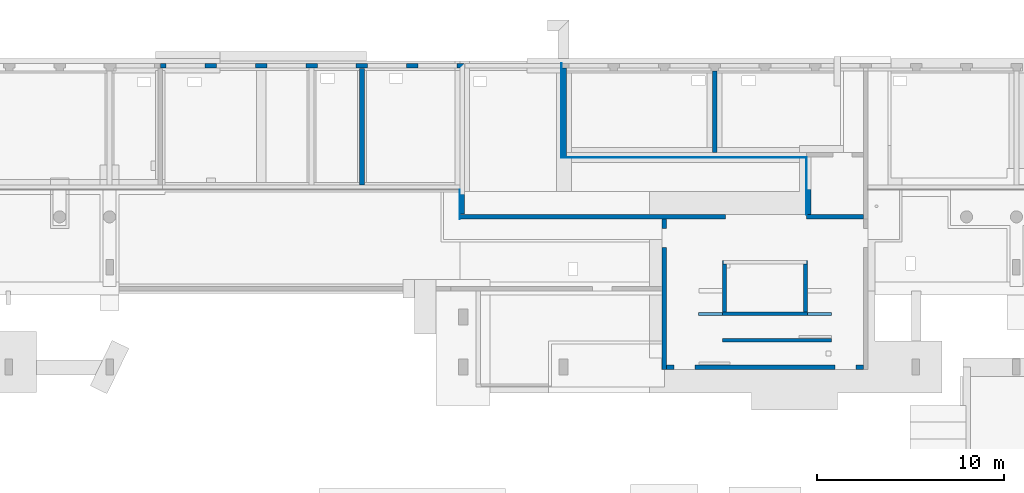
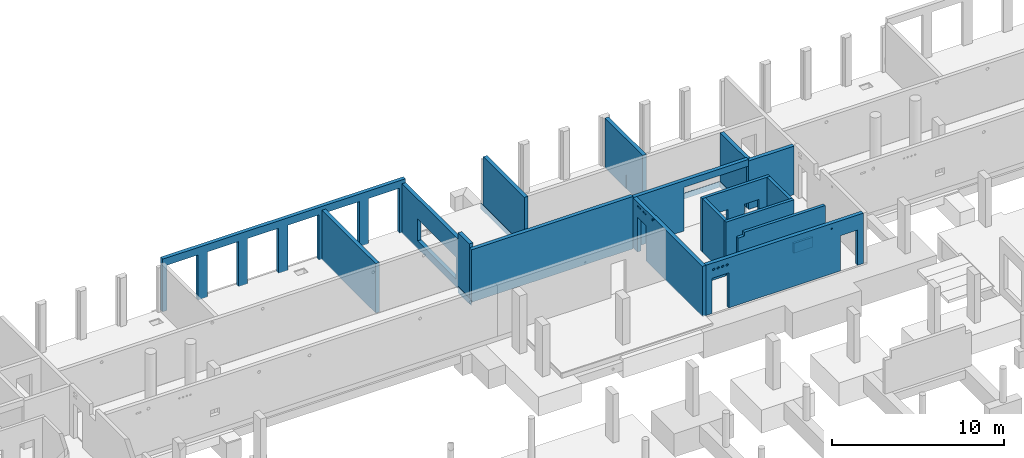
# One storey, part 46 of 60: 21 walls, 34 openings.
"""IFC2X3 building model written with IfcOpenShell, lengths in millimetres."""

from ifc_helpers import new_model, entity, si_unit, converted_unit, derived_unit, direction, frame, frame_2d, origin, origin_2d_with_axis, place, context, subcontext, project, spatial, polyline, rectangle, circle, extrude, clip, bounded_halfspace, material, layer, layer_set, layer_usage, type_object, element, save


model = new_model("IFC2X3")

# Units and contexts
model_context = context("Model", 3, precision=0.01, world=origin(), true_north=direction((6.12303176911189e-17, 1.0)))
body_context = subcontext(model_context, "Body", "Model", "MODEL_VIEW")
ifc_project = project(units=[si_unit("LENGTHUNIT", "METRE", prefix="MILLI"), si_unit("AREAUNIT", "SQUARE_METRE"), si_unit("VOLUMEUNIT", "CUBIC_METRE"), converted_unit("PLANEANGLEUNIT", "DEGREE", entity("IfcRatioMeasure", 0.0174532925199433), si_unit("PLANEANGLEUNIT", "RADIAN"), dimensions=[0, 0, 0, 0, 0, 0, 0]), si_unit("MASSUNIT", "GRAM", prefix="KILO"), derived_unit("MASSDENSITYUNIT", [(si_unit("MASSUNIT", "GRAM", prefix="KILO"), 1), (si_unit("LENGTHUNIT", "METRE"), -3)]), si_unit("TIMEUNIT", "SECOND"), si_unit("FREQUENCYUNIT", "HERTZ"), si_unit("THERMODYNAMICTEMPERATUREUNIT", "DEGREE_CELSIUS"), derived_unit("THERMALTRANSMITTANCEUNIT", [(si_unit("MASSUNIT", "GRAM", prefix="KILO"), 1), (si_unit("THERMODYNAMICTEMPERATUREUNIT", "KELVIN"), -1), (si_unit("TIMEUNIT", "SECOND"), -3)]), derived_unit("VOLUMETRICFLOWRATEUNIT", [(si_unit("LENGTHUNIT", "METRE"), 3), (si_unit("TIMEUNIT", "SECOND"), -1)]), si_unit("ELECTRICCURRENTUNIT", "AMPERE"), si_unit("ELECTRICVOLTAGEUNIT", "VOLT"), si_unit("POWERUNIT", "WATT"), si_unit("FORCEUNIT", "NEWTON", prefix="KILO"), si_unit("ILLUMINANCEUNIT", "LUX"), si_unit("LUMINOUSFLUXUNIT", "LUMEN"), si_unit("LUMINOUSINTENSITYUNIT", "CANDELA"), derived_unit("USERDEFINED", [(si_unit("MASSUNIT", "GRAM", prefix="KILO"), -1), (si_unit("LENGTHUNIT", "METRE"), -2), (si_unit("TIMEUNIT", "SECOND"), 3), (si_unit("LUMINOUSFLUXUNIT", "LUMEN"), 1)]), derived_unit("LINEARVELOCITYUNIT", [(si_unit("LENGTHUNIT", "METRE"), 1), (si_unit("TIMEUNIT", "SECOND"), -1)]), si_unit("PRESSUREUNIT", "PASCAL"), derived_unit("USERDEFINED", [(si_unit("LENGTHUNIT", "METRE"), -2), (si_unit("MASSUNIT", "GRAM", prefix="KILO"), 1), (si_unit("TIMEUNIT", "SECOND"), -2)])], contexts=[model_context])

# Site, building, storey
site_placement = place(None, origin())
site = spatial("IfcSite", under=ifc_project, at=site_placement, Name="Default", CompositionType="ELEMENT")
building_placement = place(site_placement, origin())
building = spatial("IfcBuilding", under=site, at=building_placement, Name="niet gebruiken", CompositionType="ELEMENT")
storey_placement = place(building_placement, origin())
storey = spatial("IfcBuildingStorey", under=building, at=storey_placement, Name="00 begane grond", CompositionType="ELEMENT", Elevation=0.0)

# Wall, opening
ifc_material_1 = material(Name="NLRS_f2_beton ihwg")
ifc_layer_1 = layer(ifc_material_1, 250.0)
ifc_layer_set_1 = layer_set([ifc_layer_1], Name="Basic Wall:NLRS_22.21_WA_beton ihwg d=250_gen")
ifc_layer_usage_1 = layer_usage(ifc_layer_set_1, "AXIS2", "NEGATIVE", 125.0)
wall_type_1 = type_object("IfcWallType", Name="Basic Wall:NLRS_22.21_WA_beton ihwg d=250_gen", PredefinedType="STANDARD", material=ifc_layer_set_1)
wall_1_placement = place(storey_placement, frame((70200.0, 52986.0, -160.0), z_axis=(0.0, 0.0, 1.0), x_axis=(0.0, -1.0, 0.0)))
wall_1 = element("IfcWallStandardCase", 1, at=wall_1_placement, inside=storey, type_object=wall_type_1, material=ifc_layer_usage_1, Name="Basic Wall:NLRS_22.21_WA_beton ihwg d=250_gen", ObjectType="Basic Wall:NLRS_22.21_WA_beton ihwg d=250_gen", context=body_context, shape_type="SweptSolid", body=[
    extrude(rectangle(XDim=6239.99999999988, YDim=249.999999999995, at=frame_2d((3119.99999999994, 5.25801624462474e-13), x_axis=(-1.0, 0.0))), origin(), (0.0, 0.0, 1.0), 3509.99999999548),
])
opening_1_placement = place(wall_1_placement, origin())
element("IfcOpeningElement", 2, at=opening_1_placement, cuts=wall_1, Name="Basic Wall:NLRS_22.21_WA_beton ihwg d=250_gen", ObjectType="Recess", context=body_context, shape_type="SweptSolid", body=[
    extrude(rectangle(XDim=890.0, YDim=49.9999999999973, at=origin_2d_with_axis()), frame((4490.0, 85.0, 515.0), z_axis=(0.0, 1.0, 0.0), x_axis=(0.0, 0.0, -1.0)), (0.0, 0.0, 1.0), 40.0000000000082),
])

# Wall, openings
ifc_layer_usage_2 = layer_usage(ifc_layer_set_1, "AXIS2", "NEGATIVE", 125.0)
wall_2_placement = place(storey_placement, frame((75450.0, 45031.0, -160.0)))
wall_2 = element("IfcWallStandardCase", 3, at=wall_2_placement, inside=storey, type_object=wall_type_1, material=ifc_layer_usage_2, Name="Basic Wall:NLRS_22.21_WA_beton ihwg d=250_gen", ObjectType="Basic Wall:NLRS_22.21_WA_beton ihwg d=250_gen", context=body_context, shape_type="Clipping", body=[
    clip(clip(clip(clip(clip(extrude(rectangle(XDim=18574.9999999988, YDim=249.999999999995, at=frame_2d((9287.4999999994, -3.03401748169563e-12), x_axis=(-1.0, 0.0))), origin(), (0.0, 0.0, 1.0), 3720.0), bounded_halfspace(frame((0.0, 125.0, 3720.0), z_axis=(0.0, 0.0, -1.0), x_axis=(-1.0, 0.0, 0.0)), True, frame((0.0, 125.0, 3720.0), z_axis=(0.0, 0.0, -1.0), x_axis=(-1.0, 0.0, 0.0)), polyline([(0.0, 0.0), (-20.0, 0.0), (-10824.9998491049, 0.0), (-10824.9998491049, -230.0), (-10824.9998491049, -250.0), (0.0, -250.0), (0.0, 0.0)]))), bounded_halfspace(frame((10824.9998491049, 125.0, 3630.0), z_axis=(0.0, 0.0, -1.0), x_axis=(0.0, 1.0, 0.0)), True, frame((10824.9998491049, 125.0, 3630.0), z_axis=(0.0, 0.0, -1.0), x_axis=(0.0, 1.0, 0.0)), polyline([(0.0, 0.0), (0.0, 7750.00015089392), (-230.0, 7750.00015089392), (-250.0, 7750.00015089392), (-250.0, 250.000150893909), (-250.0, 0.0), (0.0, 0.0)]))), bounded_halfspace(frame((10824.9998491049, -125.0, 3630.0), z_axis=(-1.0, 0.0, 0.0), x_axis=(0.0, 0.0, 1.0)), True, frame((10824.9998491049, -125.0, 3630.0), z_axis=(-1.0, 0.0, 0.0), x_axis=(0.0, 0.0, 1.0)), polyline([(0.0, 0.0), (90.0, 0.0), (90.0, 20.0), (90.0, 250.0), (0.0, 250.0), (0.0, 0.0)]))), bounded_halfspace(frame((10825.0, -125.0, 70.0), z_axis=(0.0, 0.0, 1.0), x_axis=(0.0, -1.0, 0.0)), True, frame((10825.0, -125.0, 70.0), z_axis=(0.0, 0.0, 1.0), x_axis=(0.0, -1.0, 0.0)), polyline([(0.0, 0.0), (0.0, 250.0), (0.0, 3400.0), (-250.0, 3400.0), (-250.0, 0.0), (0.0, 0.0)]))), bounded_halfspace(frame((10825.0, 125.0, 70.0), z_axis=(-1.0, 0.0, 0.0), x_axis=(0.0, 0.0, 1.0)), True, frame((10825.0, 125.0, 70.0), z_axis=(-1.0, 0.0, 0.0), x_axis=(0.0, 0.0, 1.0)), polyline([(0.0, 0.0), (-70.0, 0.0), (-70.0, -250.0), (0.0, -250.0), (0.0, 0.0)]))),
])
opening_2_placement = place(wall_2_placement, origin())
element("IfcOpeningElement", 4, at=opening_2_placement, cuts=wall_2, Name="Basic Wall:NLRS_22.21_WA_beton ihwg d=250_gen", ObjectType="Opening", context=body_context, shape_type="SweptSolid", body=[
    extrude(rectangle(XDim=3160.0, YDim=4350.0, at=frame_2d((0.0, 8.86757334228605e-12), x_axis=(1.0, 0.0))), frame((16400.0, -1649.0, 1580.0), z_axis=(0.0, 1.0, 0.0), x_axis=(0.0, 0.0, 1.0)), (0.0, 0.0, 1.0), 3048.0),
])
opening_3_placement = place(wall_2_placement, origin())
element("IfcOpeningElement", 5, at=opening_3_placement, cuts=wall_2, Name="Basic Wall:NLRS_22.21_WA_beton ihwg d=250_gen", ObjectType="Opening", context=body_context, shape_type="SweptSolid", body=[
    extrude(rectangle(XDim=90.0000000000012, YDim=7625.00000000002, at=origin_2d_with_axis()), frame((14762.4999999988, 125.0, 3925.0), z_axis=(0.0, -1.0, 0.0), x_axis=(0.0, 0.0, 1.0)), (0.0, 0.0, 1.0), 250.0),
])

ifc_layer_usage_3 = layer_usage(ifc_layer_set_1, "AXIS2", "NEGATIVE", 125.0)
wall_3_placement = place(storey_placement, frame((75575.0, 52986.0, -160.0), z_axis=(0.0, 0.0, 1.0), x_axis=(0.0, -1.0, 0.0)))
wall_3 = element("IfcWallStandardCase", 6, at=wall_3_placement, inside=storey, type_object=wall_type_1, material=ifc_layer_usage_3, Name="Basic Wall:NLRS_22.21_WA_beton ihwg d=250_gen", ObjectType="Basic Wall:NLRS_22.21_WA_beton ihwg d=250_gen", context=body_context, shape_type="Clipping", body=[
    clip(extrude(rectangle(XDim=7809.99999999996, YDim=249.999999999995, at=frame_2d((3904.99999999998, 0.0), x_axis=(-1.0, 0.0))), origin(), (0.0, 0.0, 1.0), 3970.00000000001), bounded_halfspace(frame((6490.0, -125.0, 3510.0), z_axis=(0.0, 0.0, -1.0), x_axis=(1.0, 0.0, 0.0)), True, frame((6490.0, -125.0, 3510.0), z_axis=(0.0, 0.0, -1.0), x_axis=(1.0, 0.0, 0.0)), polyline([(0.0, 0.0), (-6490.0, 0.0), (-6490.0, -250.0), (0.0, -250.0), (0.0, 0.0)]))),
])
opening_4_placement = place(wall_3_placement, origin())
element("IfcOpeningElement", 7, at=opening_4_placement, cuts=wall_3, Name="Basic Wall:NLRS_22.21_WA_beton ihwg d=250_gen", ObjectType="Opening", context=body_context, shape_type="SweptSolid", body=[
    extrude(rectangle(XDim=1560.0, YDim=4450.0, at=frame_2d((5.6843418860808e-14, -4.32009983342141e-12), x_axis=(1.0, 0.0))), frame((4015.0, -1649.0, 1320.0), z_axis=(0.0, 1.0, 0.0), x_axis=(0.0, 0.0, 1.0)), (0.0, 0.0, 1.0), 3048.0),
])
opening_5_placement = place(wall_3_placement, origin())
element("IfcOpeningElement", 8, at=opening_5_placement, cuts=wall_3, Name="Basic Wall:NLRS_22.21_WA_beton ihwg d=250_gen", ObjectType="Opening", context=body_context, shape_type="SweptSolid", body=[
    extrude(rectangle(XDim=209.999999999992, YDim=6489.99999999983, at=frame_2d((-4.32009983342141e-12, 5.40012479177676e-13), x_axis=(0.0, 1.0))), frame((3245.0, 125.0, 3865.0), z_axis=(0.0, -1.0, 0.0), x_axis=(-1.0, 0.0, 0.0)), (0.0, 0.0, 1.0), 250.0),
])

ifc_layer_usage_4 = layer_usage(ifc_layer_set_1, "AXIS2", "NEGATIVE", 125.0)
wall_4_placement = place(storey_placement, frame((86400.0, 44906.0, -90.0), z_axis=(0.0, 0.0, 1.0), x_axis=(0.0, -1.0, 0.0)))
wall_4 = element("IfcWallStandardCase", 9, at=wall_4_placement, inside=storey, type_object=wall_type_1, material=ifc_layer_usage_4, Name="Basic Wall:NLRS_22.21_WA_beton ihwg d=250_gen", ObjectType="Basic Wall:NLRS_22.21_WA_beton ihwg d=250_gen", context=body_context, shape_type="Clipping", body=[
    clip(extrude(rectangle(XDim=8049.99999999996, YDim=250.000000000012, at=frame_2d((4024.99999999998, -9.09494701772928e-13), x_axis=(-1.0, 0.0))), origin(), (0.0, 0.0, 1.0), 3560.0), bounded_halfspace(frame((0.0, -125.0, 3560.0), z_axis=(0.0, 0.0, -1.0), x_axis=(-1.0, 0.0, 0.0)), True, frame((0.0, -125.0, 3560.0), z_axis=(0.0, 0.0, -1.0), x_axis=(-1.0, 0.0, 0.0)), polyline([(0.0, 0.0), (0.0, 250.0), (-7080.0, 250.0), (-7800.0, 250.0), (-8050.0, 250.0), (-8050.0, 0.0), (0.0, 0.0)]))),
])
opening_6_placement = place(wall_4_placement, origin())
element("IfcOpeningElement", 10, at=opening_6_placement, cuts=wall_4, Name="Basic Wall:NLRS_22.21_WA_beton ihwg d=250_gen", ObjectType="Opening", context=body_context, shape_type="SweptSolid", body=[
    extrude(rectangle(XDim=2470.0, YDim=1025.0, at=frame_2d((0.0, 4.32009983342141e-12), x_axis=(1.0, 0.0))), frame((1007.49999999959, -1649.0, 1235.0), z_axis=(0.0, 1.0, 0.0), x_axis=(0.0, 0.0, 1.0)), (0.0, 0.0, 1.0), 3048.0),
])
opening_7_placement = place(wall_4_placement, origin())
element("IfcOpeningElement", 11, at=opening_7_placement, cuts=wall_4, Name="Basic Wall:NLRS_22.21_WA_beton ihwg d=250_gen", ObjectType="Opening", context=body_context, shape_type="SweptSolid", body=[
    extrude(circle(Radius=80.0, at=origin_2d_with_axis()), frame((2250.0, -125.0, 3350.0), z_axis=(0.0, 1.0, 0.0), x_axis=(-1.0, 0.0, 0.0)), (0.0, 0.0, 1.0), 249.999999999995),
])
opening_8_placement = place(wall_4_placement, origin())
element("IfcOpeningElement", 12, at=opening_8_placement, cuts=wall_4, Name="Basic Wall:NLRS_22.21_WA_beton ihwg d=250_gen", ObjectType="Opening", context=body_context, shape_type="SweptSolid", body=[
    extrude(rectangle(XDim=120.0, YDim=370.000000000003, at=origin_2d_with_axis()), frame((680.0, -125.0, 3270.0), z_axis=(0.0, 1.0, 0.0), x_axis=(0.0, 0.0, -1.0)), (0.0, 0.0, 1.0), 250.000000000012),
])
opening_9_placement = place(wall_4_placement, origin())
element("IfcOpeningElement", 13, at=opening_9_placement, cuts=wall_4, Name="Basic Wall:NLRS_22.21_WA_beton ihwg d=250_gen", ObjectType="Opening", context=body_context, shape_type="SweptSolid", body=[
    extrude(rectangle(XDim=120.0, YDim=370.000000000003, at=origin_2d_with_axis()), frame((1335.0, -125.0, 3270.0), z_axis=(0.0, 1.0, 0.0), x_axis=(0.0, 0.0, -1.0)), (0.0, 0.0, 1.0), 250.000000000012),
])
opening_10_placement = place(wall_4_placement, origin())
element("IfcOpeningElement", 14, at=opening_10_placement, cuts=wall_4, Name="Basic Wall:NLRS_22.21_WA_beton ihwg d=250_gen", ObjectType="Opening", context=body_context, shape_type="SweptSolid", body=[
    extrude(circle(Radius=55.0, at=origin_2d_with_axis()), frame((2410.00024857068, -125.0, 3490.0), z_axis=(0.0, 1.0, 0.0), x_axis=(-1.0, 0.0, 0.0)), (0.0, 0.0, 1.0), 249.999999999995),
])

ifc_layer_usage_5 = layer_usage(ifc_layer_set_1, "AXIS2", "NEGATIVE", 125.0)
wall_5_placement = place(storey_placement, frame((86525.0, 36981.0, -90.0)))
wall_5 = element("IfcWallStandardCase", 15, at=wall_5_placement, inside=storey, type_object=wall_type_1, material=ifc_layer_usage_5, Name="Basic Wall:NLRS_22.21_WA_beton ihwg d=250_gen", ObjectType="Basic Wall:NLRS_22.21_WA_beton ihwg d=250_gen", context=body_context, shape_type="Clipping", body=[
    clip(extrude(rectangle(XDim=10550.0, YDim=250.000000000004, at=frame_2d((5275.0, 3.05533376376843e-13), x_axis=(-1.0, 0.0))), origin(), (0.0, 0.0, 1.0), 3560.0), bounded_halfspace(frame((0.0, -125.0, 3560.0), z_axis=(0.0, 0.0, -1.0), x_axis=(0.0, 1.0, 0.0)), True, frame((0.0, -125.0, 3560.0), z_axis=(0.0, 0.0, -1.0), x_axis=(0.0, 1.0, 0.0)), polyline([(0.0, 0.0), (250.0, 0.0), (250.0, 300.0), (250.0, 3374.9997832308), (250.0, 7174.99978323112), (250.0, 10550.0), (0.0, 10550.0), (0.0, 0.0)]))),
])
opening_11_placement = place(wall_5_placement, origin())
element("IfcOpeningElement", 16, at=opening_11_placement, cuts=wall_5, Name="Basic Wall:NLRS_22.21_WA_beton ihwg d=250_gen", ObjectType="Opening", context=body_context, shape_type="SweptSolid", body=[
    extrude(rectangle(XDim=2495.0, YDim=1130.0, at=frame_2d((0.0, -8.64019966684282e-12), x_axis=(1.0, 0.0))), frame((9585.0, -1649.0, 1247.5), z_axis=(0.0, 1.0, 0.0), x_axis=(0.0, 0.0, 1.0)), (0.0, 0.0, 1.0), 3048.0),
])
opening_12_placement = place(wall_5_placement, origin())
element("IfcOpeningElement", 17, at=opening_12_placement, cuts=wall_5, Name="Basic Wall:NLRS_22.21_WA_beton ihwg d=250_gen", ObjectType="Opening", context=body_context, shape_type="SweptSolid", body=[
    extrude(rectangle(XDim=2495.0, YDim=1130.0, at=frame_2d((0.0, -8.64019966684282e-12), x_axis=(1.0, 0.0))), frame((965.0, -1649.0, 1247.5), z_axis=(0.0, 1.0, 0.0), x_axis=(0.0, 0.0, 1.0)), (0.0, 0.0, 1.0), 3048.0),
])
opening_13_placement = place(wall_5_placement, origin())
element("IfcOpeningElement", 18, at=opening_13_placement, cuts=wall_5, Name="Basic Wall:NLRS_22.21_WA_beton ihwg d=250_gen", ObjectType="Opening", context=body_context, shape_type="SweptSolid", body=[
    extrude(circle(Radius=80.0, at=frame_2d((0.0, -5.41433564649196e-13), x_axis=(1.0, 0.0))), frame((515.0, -125.0, 3090.0), z_axis=(0.0, 1.0, 0.0), x_axis=(1.0, 0.0, 0.0)), (0.0, 0.0, 1.0), 249.999999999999),
])
opening_14_placement = place(wall_5_placement, origin())
element("IfcOpeningElement", 19, at=opening_14_placement, cuts=wall_5, Name="Basic Wall:NLRS_22.21_WA_beton ihwg d=250_gen", ObjectType="Opening", context=body_context, shape_type="SweptSolid", body=[
    extrude(circle(Radius=80.0, at=frame_2d((0.0, -5.41433564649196e-13), x_axis=(1.0, 0.0))), frame((815.0, -125.0, 3090.0), z_axis=(0.0, 1.0, 0.0), x_axis=(1.0, 0.0, 0.0)), (0.0, 0.0, 1.0), 249.999999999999),
])
opening_15_placement = place(wall_5_placement, origin())
element("IfcOpeningElement", 20, at=opening_15_placement, cuts=wall_5, Name="Basic Wall:NLRS_22.21_WA_beton ihwg d=250_gen", ObjectType="Opening", context=body_context, shape_type="SweptSolid", body=[
    extrude(circle(Radius=80.0, at=frame_2d((0.0, -5.41433564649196e-13), x_axis=(1.0, 0.0))), frame((1115.0, -125.0, 3090.0), z_axis=(0.0, 1.0, 0.0), x_axis=(1.0, 0.0, 0.0)), (0.0, 0.0, 1.0), 249.999999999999),
])
opening_16_placement = place(wall_5_placement, origin())
element("IfcOpeningElement", 21, at=opening_16_placement, cuts=wall_5, Name="Basic Wall:NLRS_22.21_WA_beton ihwg d=250_gen", ObjectType="Opening", context=body_context, shape_type="SweptSolid", body=[
    extrude(circle(Radius=80.0, at=frame_2d((0.0, -5.41433564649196e-13), x_axis=(1.0, 0.0))), frame((1415.0, -125.0, 3090.0), z_axis=(0.0, 1.0, 0.0), x_axis=(1.0, 0.0, 0.0)), (0.0, 0.0, 1.0), 249.999999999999),
])
opening_17_placement = place(wall_5_placement, origin())
element("IfcOpeningElement", 22, at=opening_17_placement, cuts=wall_5, Name="Basic Wall:NLRS_22.21_WA_beton ihwg d=250_gen", ObjectType="Opening", context=body_context, shape_type="SweptSolid", body=[
    extrude(circle(Radius=55.0, at=frame_2d((0.0, -5.41433564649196e-13), x_axis=(1.0, 0.0))), frame((8435.0, -125.0, 3210.0), z_axis=(0.0, 1.0, 0.0), x_axis=(1.0, 0.0, 0.0)), (0.0, 0.0, 1.0), 249.999999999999),
])

# Wall
ifc_layer_usage_6 = layer_usage(ifc_layer_set_1, "AXIS2", "NEGATIVE", 125.0)
wall_6_placement = place(storey_placement, frame((81025.0, 53006.0, -160.0), z_axis=(0.0, 0.0, 1.0), x_axis=(0.0, -1.0, 0.0)))
element("IfcWallStandardCase", 23, at=wall_6_placement, inside=storey, type_object=wall_type_1, material=ifc_layer_usage_6, Name="Basic Wall:NLRS_22.21_WA_beton ihwg d=250_gen", ObjectType="Basic Wall:NLRS_22.21_WA_beton ihwg d=250_gen", context=body_context, shape_type="SweptSolid", body=[
    extrude(rectangle(XDim=4779.99999999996, YDim=250.000000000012, at=frame_2d((2389.99999999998, 0.0), x_axis=(-1.0, 0.0))), origin(), (0.0, 0.0, 1.0), 3510.00000000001),
])

# Wall, openings
ifc_layer_usage_7 = layer_usage(ifc_layer_set_1, "AXIS2", "NEGATIVE", 125.0)
wall_7_placement = place(storey_placement, frame((89100.0, 52846.0, -160.0), z_axis=(0.0, 0.0, 1.0), x_axis=(0.0, -1.0, 0.0)))
wall_7 = element("IfcWallStandardCase", 24, at=wall_7_placement, inside=storey, type_object=wall_type_1, material=ifc_layer_usage_7, Name="Basic Wall:NLRS_22.21_WA_beton ihwg d=250_gen", ObjectType="Basic Wall:NLRS_22.21_WA_beton ihwg d=250_gen", context=body_context, shape_type="SweptSolid", body=[
    extrude(rectangle(XDim=4370.00000000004, YDim=250.000000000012, at=frame_2d((2185.00000000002, 0.0), x_axis=(-1.0, 0.0))), origin(), (0.0, 0.0, 1.0), 3510.00000000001),
])
opening_18_placement = place(wall_7_placement, origin())
element("IfcOpeningElement", 25, at=opening_18_placement, cuts=wall_7, Name="Basic Wall:NLRS_22.21_WA_beton ihwg d=250_gen", ObjectType="Recess", context=body_context, shape_type="SweptSolid", body=[
    extrude(rectangle(XDim=890.0, YDim=49.9999999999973, at=origin_2d_with_axis()), frame((2250.0, 85.0, 515.0), z_axis=(0.0, 1.0, 0.0), x_axis=(0.0, 0.0, -1.0)), (0.0, 0.0, 1.0), 39.9999999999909),
])
opening_19_placement = place(wall_7_placement, origin())
element("IfcOpeningElement", 26, at=opening_19_placement, cuts=wall_7, Name="Basic Wall:NLRS_22.21_WA_beton ihwg d=250_gen", ObjectType="Recess", context=body_context, shape_type="SweptSolid", body=[
    extrude(rectangle(XDim=890.0, YDim=49.9999999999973, at=origin_2d_with_axis()), frame((2450.0, -125.0, 515.0), z_axis=(0.0, 1.0, 0.0), x_axis=(0.0, 0.0, -1.0)), (0.0, 0.0, 1.0), 39.9999999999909),
])

# Wall, opening
ifc_layer_usage_8 = layer_usage(ifc_layer_set_1, "AXIS2", "NEGATIVE", 125.0)
wall_8_placement = place(storey_placement, frame((94025.0, 45031.0, -90.0)))
wall_8 = element("IfcWallStandardCase", 27, at=wall_8_placement, inside=storey, type_object=wall_type_1, material=ifc_layer_usage_8, Name="Basic Wall:NLRS_22.21_WA_beton ihwg d=250_gen", ObjectType="Basic Wall:NLRS_22.21_WA_beton ihwg d=250_gen", context=body_context, shape_type="Clipping", body=[
    clip(clip(extrude(rectangle(XDim=3050.0, YDim=249.999999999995, at=frame_2d((1525.0, 1.56319401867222e-13), x_axis=(-1.0, 0.0))), origin(), (0.0, 0.0, 1.0), 3440.0), bounded_halfspace(frame((0.0, -125.0, 3440.0), z_axis=(0.0, 0.0, -1.0), x_axis=(0.0, -1.0, 0.0)), True, frame((0.0, -125.0, 3440.0), z_axis=(0.0, 0.0, -1.0), x_axis=(0.0, -1.0, 0.0)), polyline([(0.0, 0.0), (-250.0, 0.0), (-250.0, -3050.0), (0.0, -3050.0), (0.0, 0.0)]))), bounded_halfspace(frame((3050.0, -125.0, 0.0), z_axis=(0.0, 0.0, 1.0), x_axis=(0.0, -1.0, 0.0)), True, frame((3050.0, -125.0, 0.0), z_axis=(0.0, 0.0, 1.0), x_axis=(0.0, -1.0, 0.0)), polyline([(0.0, 0.0), (-250.0, 0.0), (-250.0, -3050.0), (0.0, -3050.0), (0.0, 0.0)]))),
])
opening_20_placement = place(wall_8_placement, origin())
element("IfcOpeningElement", 28, at=opening_20_placement, cuts=wall_8, Name="Basic Wall:NLRS_22.21_WA_beton ihwg d=250_gen", ObjectType="Opening", context=body_context, shape_type="SweptSolid", body=[
    extrude(rectangle(XDim=3160.0, YDim=4350.0, at=frame_2d((0.0, 8.86757334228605e-12), x_axis=(1.0, 0.0))), frame((-2175.0, -1649.0, 1510.0), z_axis=(0.0, 1.0, 0.0), x_axis=(0.0, 0.0, 1.0)), (0.0, 0.0, 1.0), 3048.0),
])

ifc_layer_usage_9 = layer_usage(ifc_layer_set_1, "AXIS2", "NEGATIVE", 125.0)
wall_9_placement = place(storey_placement, frame((94150.0, 48226.0, -90.0), z_axis=(0.0, 0.0, 1.0), x_axis=(0.0, -1.0, 0.0)))
wall_9 = element("IfcWallStandardCase", 29, at=wall_9_placement, inside=storey, type_object=wall_type_1, material=ifc_layer_usage_9, Name="Basic Wall:NLRS_22.21_WA_beton ihwg d=250_gen", ObjectType="Basic Wall:NLRS_22.21_WA_beton ihwg d=250_gen", context=body_context, shape_type="Clipping", body=[
    clip(extrude(rectangle(XDim=3070.00000000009, YDim=250.000000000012, at=frame_2d((1535.00000000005, -5.7056581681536e-12), x_axis=(-1.0, 0.0))), origin(), (0.0, 0.0, 1.0), 3440.0), bounded_halfspace(frame((0.0, -125.0, 3440.0), z_axis=(0.0, 0.0, -1.0), x_axis=(1.0, 0.0, 0.0)), True, frame((0.0, -125.0, 3440.0), z_axis=(0.0, 0.0, -1.0), x_axis=(1.0, 0.0, 0.0)), polyline([(0.0, 0.0), (0.0, -250.0), (3070.0, -250.0), (3070.0, 0.0), (0.0, 0.0)]))),
])
opening_21_placement = place(wall_9_placement, origin())
element("IfcOpeningElement", 30, at=opening_21_placement, cuts=wall_9, Name="Basic Wall:NLRS_22.21_WA_beton ihwg d=250_gen", ObjectType="Opening", context=body_context, shape_type="SweptSolid", body=[
    extrude(rectangle(XDim=3160.0, YDim=250.000000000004, at=frame_2d((-4.33431068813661e-12, 0.0), x_axis=(0.0, 1.0))), frame((3195.0, -4475.0, 1510.0), z_axis=(0.0, 1.0, 0.0), x_axis=(1.0, 0.0, 0.0)), (0.0, 0.0, 1.0), 4350.0),
])

# Wall, openings
ifc_material_2 = material(Name="NLRS_f2_beton prefab")
ifc_layer_2 = layer(ifc_material_2, 250.0)
ifc_layer_set_2 = layer_set([ifc_layer_2], Name="Basic Wall:NLRS_21.21_WA_beton prefab d=250_gen")
ifc_layer_usage_10 = layer_usage(ifc_layer_set_2, "AXIS2", "NEGATIVE", 125.0)
wall_type_2 = type_object("IfcWallType", Name="Basic Wall:NLRS_21.21_WA_beton prefab d=250_gen", PredefinedType="STANDARD", material=ifc_layer_set_2)
wall_10_placement = place(storey_placement, frame((59410.0, 53131.0, -130.0)))
wall_10 = element("IfcWallStandardCase", 31, at=wall_10_placement, inside=storey, type_object=wall_type_2, material=ifc_layer_usage_10, Name="Basic Wall:NLRS_21.21_WA_beton prefab d=250_gen", ObjectType="Basic Wall:NLRS_21.21_WA_beton prefab d=250_gen", context=body_context, shape_type="SweptSolid", body=[
    extrude(rectangle(XDim=16290.0000000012, YDim=249.999999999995, at=frame_2d((8145.0000000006, 6.89226453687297e-13), x_axis=(-1.0, 0.0))), origin(), (0.0, 0.0, 1.0), 3730.00000000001),
])
opening_22_placement = place(wall_10_placement, origin())
element("IfcOpeningElement", 32, at=opening_22_placement, cuts=wall_10, Name="Basic Wall:NLRS_21.21_WA_beton prefab d=250_gen", ObjectType="Opening", context=body_context, shape_type="SweptSolid", body=[
    extrude(rectangle(XDim=3230.0, YDim=2080.0, at=frame_2d((0.0, 4.32009983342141e-12), x_axis=(1.0, 0.0))), frame((14840.0009601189, -1649.0, 1585.0), z_axis=(0.0, 1.0, 0.0), x_axis=(0.0, 0.0, 1.0)), (0.0, 0.0, 1.0), 3048.0),
])
opening_23_placement = place(wall_10_placement, origin())
element("IfcOpeningElement", 33, at=opening_23_placement, cuts=wall_10, Name="Basic Wall:NLRS_21.21_WA_beton prefab d=250_gen", ObjectType="Opening", context=body_context, shape_type="SweptSolid", body=[
    extrude(rectangle(XDim=3230.0, YDim=2080.0, at=frame_2d((0.0, -4.32009983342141e-12), x_axis=(1.0, 0.0))), frame((12140.0009601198, -1649.0, 1585.0), z_axis=(0.0, 1.0, 0.0), x_axis=(0.0, 0.0, 1.0)), (0.0, 0.0, 1.0), 3048.0),
])
opening_24_placement = place(wall_10_placement, origin())
element("IfcOpeningElement", 34, at=opening_24_placement, cuts=wall_10, Name="Basic Wall:NLRS_21.21_WA_beton prefab d=250_gen", ObjectType="Opening", context=body_context, shape_type="SweptSolid", body=[
    extrude(rectangle(XDim=3230.0, YDim=2080.0, at=frame_2d((0.0, 4.32009983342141e-12), x_axis=(1.0, 0.0))), frame((9440.00096011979, -1649.0, 1585.0), z_axis=(0.0, 1.0, 0.0), x_axis=(0.0, 0.0, 1.0)), (0.0, 0.0, 1.0), 3048.0),
])
opening_25_placement = place(wall_10_placement, origin())
element("IfcOpeningElement", 35, at=opening_25_placement, cuts=wall_10, Name="Basic Wall:NLRS_21.21_WA_beton prefab d=250_gen", ObjectType="Opening", context=body_context, shape_type="SweptSolid", body=[
    extrude(rectangle(XDim=3230.0, YDim=2080.0, at=frame_2d((0.0, -4.32009983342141e-12), x_axis=(1.0, 0.0))), frame((6740.0009601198, -1649.0, 1585.0), z_axis=(0.0, 1.0, 0.0), x_axis=(0.0, 0.0, 1.0)), (0.0, 0.0, 1.0), 3048.0),
])
opening_26_placement = place(wall_10_placement, origin())
element("IfcOpeningElement", 36, at=opening_26_placement, cuts=wall_10, Name="Basic Wall:NLRS_21.21_WA_beton prefab d=250_gen", ObjectType="Opening", context=body_context, shape_type="SweptSolid", body=[
    extrude(rectangle(XDim=3230.0, YDim=2080.0, at=frame_2d((0.0, -4.32009983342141e-12), x_axis=(1.0, 0.0))), frame((4040.00096011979, -1649.0, 1585.0), z_axis=(0.0, 1.0, 0.0), x_axis=(0.0, 0.0, 1.0)), (0.0, 0.0, 1.0), 3048.0),
])
opening_27_placement = place(wall_10_placement, origin())
element("IfcOpeningElement", 37, at=opening_27_placement, cuts=wall_10, Name="Basic Wall:NLRS_21.21_WA_beton prefab d=250_gen", ObjectType="Opening", context=body_context, shape_type="SweptSolid", body=[
    extrude(rectangle(XDim=3230.0, YDim=2080.0, at=frame_2d((0.0, 4.32009983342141e-12), x_axis=(1.0, 0.0))), frame((1340.00096011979, -1649.0, 1585.0), z_axis=(0.0, 1.0, 0.0), x_axis=(0.0, 0.0, 1.0)), (0.0, 0.0, 1.0), 3048.0),
])
opening_28_placement = place(wall_10_placement, origin())
element("IfcOpeningElement", 38, at=opening_28_placement, cuts=wall_10, Name="Basic Wall:NLRS_21.21_WA_beton prefab d=250_gen", ObjectType="Opening", context=body_context, shape_type="SweptSolid", body=[
    extrude(rectangle(XDim=2440.0, YDim=2080.0, at=frame_2d((0.0, 4.32009983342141e-12), x_axis=(1.0, 0.0))), frame((14840.0009601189, -1649.0, 4950.0), z_axis=(0.0, 1.0, 0.0), x_axis=(0.0, 0.0, 1.0)), (0.0, 0.0, 1.0), 3048.0),
])

# Walls
ifc_material_3 = material(Name="NLRS_f1_kalkzandsteen wit")
ifc_layer_3 = layer(ifc_material_3, 150.0)
ifc_layer_set_3 = layer_set([ifc_layer_3], Name="Basic Wall:NLRS_21.11_WA_kalkzandsteen vellingblok d=150_gen")
ifc_layer_usage_11 = layer_usage(ifc_layer_set_3, "AXIS2", "NEGATIVE", 75.0)
wall_type_3 = type_object("IfcWallType", Name="Basic Wall:NLRS_21.11_WA_kalkzandsteen vellingblok d=150_gen", PredefinedType="STANDARD", material=ifc_layer_set_3)
wall_11_placement = place(storey_placement, frame((88228.0, 39821.0, -90.0)))
element("IfcWallStandardCase", 39, at=wall_11_placement, inside=storey, type_object=wall_type_3, material=ifc_layer_usage_11, Name="Basic Wall:NLRS_21.11_WA_kalkzandsteen vellingblok d=150_gen", ObjectType="Basic Wall:NLRS_21.11_WA_kalkzandsteen vellingblok d=150_gen", context=body_context, shape_type="SweptSolid", body=[
    extrude(rectangle(XDim=1296.99984910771, YDim=150.000000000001, at=frame_2d((648.499924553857, 0.0), x_axis=(-1.0, 0.0))), origin(), (0.0, 0.0, 1.0), 705.909090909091),
])
ifc_layer_usage_12 = layer_usage(ifc_layer_set_3, "AXIS2", "NEGATIVE", 75.0)
wall_12_placement = place(storey_placement, frame((94075.0, 39821.0, -90.0)))
element("IfcWallStandardCase", 40, at=wall_12_placement, inside=storey, type_object=wall_type_3, material=ifc_layer_usage_12, Name="Basic Wall:NLRS_21.11_WA_kalkzandsteen vellingblok d=150_gen", ObjectType="Basic Wall:NLRS_21.11_WA_kalkzandsteen vellingblok d=150_gen", context=body_context, shape_type="SweptSolid", body=[
    extrude(rectangle(XDim=1297.00015089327, YDim=150.000000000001, at=frame_2d((648.500075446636, 0.0), x_axis=(-1.0, 0.0))), origin(), (0.0, 0.0, 1.0), 705.909090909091),
])

# Wall, opening
ifc_layer_4 = layer(ifc_material_2, 200.0)
ifc_layer_set_4 = layer_set([ifc_layer_4], Name="Basic Wall:NLRS_22.21_WA_beton prefab d=200_gen")
ifc_layer_usage_13 = layer_usage(ifc_layer_set_4, "AXIS2", "NEGATIVE", 100.0)
wall_type_4 = type_object("IfcWallType", Name="Basic Wall:NLRS_22.21_WA_beton prefab d=200_gen", PredefinedType="STANDARD", material=ifc_layer_set_4)
wall_13_placement = place(storey_placement, frame((95375.0, 38426.0, -60.0), z_axis=(0.0, 0.0, 1.0), x_axis=(-1.0, 0.0, 0.0)))
wall_13 = element("IfcWallStandardCase", 41, at=wall_13_placement, inside=storey, type_object=wall_type_4, material=ifc_layer_usage_13, Name="Basic Wall:NLRS_22.21_WA_beton prefab d=200_gen", ObjectType="Basic Wall:NLRS_22.21_WA_beton prefab d=200_gen", context=body_context, shape_type="SweptSolid", body=[
    extrude(rectangle(XDim=5850.00015089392, YDim=199.999999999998, at=frame_2d((2925.00007544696, 0.0), x_axis=(-1.0, 0.0))), origin(), (0.0, 0.0, 1.0), 3780.0),
])
opening_29_placement = place(wall_13_placement, origin())
element("IfcOpeningElement", 42, at=opening_29_placement, cuts=wall_13, Name="Basic Wall:NLRS_22.21_WA_beton prefab d=200_gen", ObjectType="Opening", context=body_context, shape_type="SweptSolid", body=[
    extrude(rectangle(XDim=270.0, YDim=408.000000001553, at=frame_2d((-2.70006239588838e-13, 8.66862137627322e-12), x_axis=(1.0, 0.0))), frame((5646.00015089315, 100.0, 3645.0), z_axis=(0.0, -1.0, 0.0), x_axis=(0.0, 0.0, 1.0)), (0.0, 0.0, 1.0), 200.0),
])

# Wall, openings
ifc_layer_usage_14 = layer_usage(ifc_layer_set_4, "AXIS2", "NEGATIVE", 100.0)
wall_14_placement = place(storey_placement, frame((89525.0, 42596.0, -60.0)))
wall_14 = element("IfcWallStandardCase", 43, at=wall_14_placement, inside=storey, type_object=wall_type_4, material=ifc_layer_usage_14, Name="Basic Wall:NLRS_22.21_WA_beton prefab d=200_gen", ObjectType="Basic Wall:NLRS_22.21_WA_beton prefab d=200_gen", context=body_context, shape_type="SweptSolid", body=[
    extrude(rectangle(XDim=4549.99999999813, YDim=200.000000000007, at=frame_2d((2274.99999999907, 0.0), x_axis=(-1.0, 0.0))), origin(), (0.0, 0.0, 1.0), 3780.0),
])
opening_30_placement = place(wall_14_placement, origin())
element("IfcOpeningElement", 44, at=opening_30_placement, cuts=wall_14, Name="Basic Wall:NLRS_22.21_WA_beton prefab d=200_gen", ObjectType="Opening", context=body_context, shape_type="SweptSolid", body=[
    extrude(rectangle(XDim=2430.0, YDim=980.000000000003, at=frame_2d((1.13686837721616e-13, -8.66862137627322e-12), x_axis=(1.0, 0.0))), frame((1219.99984910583, -1624.0, 1185.0), z_axis=(0.0, 1.0, 0.0), x_axis=(0.0, 0.0, 1.0)), (0.0, 0.0, 1.0), 3048.0),
])
opening_31_placement = place(wall_14_placement, origin())
element("IfcOpeningElement", 45, at=opening_31_placement, cuts=wall_14, Name="Basic Wall:NLRS_22.21_WA_beton prefab d=200_gen", ObjectType="Opening", context=body_context, shape_type="SweptSolid", body=[
    extrude(rectangle(XDim=2430.0, YDim=980.000000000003, at=frame_2d((1.13686837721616e-13, 8.66862137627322e-12), x_axis=(1.0, 0.0))), frame((3329.99984910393, -1624.0, 1185.0), z_axis=(0.0, 1.0, 0.0), x_axis=(0.0, 0.0, 1.0)), (0.0, 0.0, 1.0), 3048.0),
])
opening_32_placement = place(wall_14_placement, origin())
element("IfcOpeningElement", 46, at=opening_32_placement, cuts=wall_14, Name="Basic Wall:NLRS_22.21_WA_beton prefab d=200_gen", ObjectType="Opening", context=body_context, shape_type="SweptSolid", body=[
    extrude(rectangle(XDim=370.000000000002, YDim=89.9999999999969, at=frame_2d((0.0, 8.66506866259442e-12), x_axis=(1.0, 0.0))), frame((569.999849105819, -1424.0, 1745.0), z_axis=(0.0, 1.0, 0.0), x_axis=(0.0, 0.0, 1.0)), (0.0, 0.0, 1.0), 3048.0),
])
opening_33_placement = place(wall_14_placement, origin())
element("IfcOpeningElement", 47, at=opening_33_placement, cuts=wall_14, Name="Basic Wall:NLRS_22.21_WA_beton prefab d=200_gen", ObjectType="Opening", context=body_context, shape_type="SweptSolid", body=[
    extrude(rectangle(XDim=505.000000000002, YDim=135.000000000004, at=frame_2d((0.0, 8.66151594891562e-12), x_axis=(1.0, 0.0))), frame((2275.0, -1624.0, 1262.5), z_axis=(0.0, 1.0, 0.0), x_axis=(0.0, 0.0, 1.0)), (0.0, 0.0, 1.0), 3048.0),
])

# Walls
ifc_layer_usage_15 = layer_usage(ifc_layer_set_4, "AXIS2", "NEGATIVE", 100.0)
wall_15_placement = place(storey_placement, frame((89625.0, 39946.0, -60.0), z_axis=(0.0, 0.0, 1.0), x_axis=(0.0, 1.0, 0.0)))
element("IfcWallStandardCase", 48, at=wall_15_placement, inside=storey, type_object=wall_type_4, material=ifc_layer_usage_15, Name="Basic Wall:NLRS_22.21_WA_beton prefab d=200_gen", ObjectType="Basic Wall:NLRS_22.21_WA_beton prefab d=200_gen", context=body_context, shape_type="SweptSolid", body=[
    extrude(rectangle(XDim=2549.99999999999, YDim=199.999999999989, at=frame_2d((1275.0, 0.0), x_axis=(-1.0, 0.0))), origin(), (0.0, 0.0, 1.0), 3780.0),
])
ifc_layer_usage_16 = layer_usage(ifc_layer_set_4, "AXIS2", "NEGATIVE", 100.0)
wall_16_placement = place(storey_placement, frame((93975.0, 42496.0, -60.0), z_axis=(0.0, 0.0, 1.0), x_axis=(0.0, -1.0, 0.0)))
element("IfcWallStandardCase", 49, at=wall_16_placement, inside=storey, type_object=wall_type_4, material=ifc_layer_usage_16, Name="Basic Wall:NLRS_22.21_WA_beton prefab d=200_gen", ObjectType="Basic Wall:NLRS_22.21_WA_beton prefab d=200_gen", context=body_context, shape_type="SweptSolid", body=[
    extrude(rectangle(XDim=2549.99999999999, YDim=199.999999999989, at=frame_2d((1275.0, -4.09272615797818e-12), x_axis=(-1.0, 0.0))), origin(), (0.0, 0.0, 1.0), 3780.0),
])
ifc_layer_usage_17 = layer_usage(ifc_layer_set_4, "AXIS2", "NEGATIVE", 100.0)
wall_17_placement = place(storey_placement, frame((94075.0, 39846.0, -60.0), z_axis=(0.0, 0.0, 1.0), x_axis=(-1.0, 0.0, 0.0)))
element("IfcWallStandardCase", 50, at=wall_17_placement, inside=storey, type_object=wall_type_4, material=ifc_layer_usage_17, Name="Basic Wall:NLRS_22.21_WA_beton prefab d=200_gen", ObjectType="Basic Wall:NLRS_22.21_WA_beton prefab d=200_gen", context=body_context, shape_type="SweptSolid", body=[
    extrude(rectangle(XDim=4549.99999999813, YDim=200.000000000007, at=frame_2d((2274.99999999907, 3.62376795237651e-13), x_axis=(-1.0, 0.0))), origin(), (0.0, 0.0, 1.0), 3780.0),
])
ifc_material_4 = material(Name="NLRS_n7_isolatie EPS")
ifc_layer_5 = layer(ifc_material_4, 20.0)
ifc_layer_set_5 = layer_set([ifc_layer_5], Name="Basic Wall:NLRS_21.12_WA_isolatie EPS platen d=20_gen")
ifc_layer_usage_18 = layer_usage(ifc_layer_set_5, "AXIS2", "NEGATIVE", 10.0)
wall_type_5 = type_object("IfcWallType", Name="Basic Wall:NLRS_21.12_WA_isolatie EPS platen d=20_gen", PredefinedType="STANDARD", material=ifc_layer_set_5)
wall_18_placement = place(storey_placement, frame((80890.0, 53256.0, -492.0), z_axis=(0.0, 0.0, 1.0), x_axis=(0.0, -1.0, 0.0)))
element("IfcWallStandardCase", 51, at=wall_18_placement, inside=storey, type_object=wall_type_5, material=ifc_layer_usage_18, Name="Basic Wall:NLRS_21.12_WA_isolatie EPS platen d=20_gen", ObjectType="Basic Wall:NLRS_21.12_WA_isolatie EPS platen d=20_gen", context=body_context, shape_type="SweptSolid", body=[
    extrude(rectangle(XDim=5049.99999999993, YDim=19.9999999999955, at=frame_2d((2524.99999999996, -1.64934732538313e-12), x_axis=(-1.0, 0.0))), origin(), (0.0, 0.0, 1.0), 402.0),
])
ifc_layer_usage_19 = layer_usage(ifc_layer_set_5, "AXIS2", "NEGATIVE", 10.0)
wall_19_placement = place(storey_placement, frame((80900.0, 48216.0, -492.0)))
element("IfcWallStandardCase", 52, at=wall_19_placement, inside=storey, type_object=wall_type_5, material=ifc_layer_usage_19, Name="Basic Wall:NLRS_21.12_WA_isolatie EPS platen d=20_gen", ObjectType="Basic Wall:NLRS_21.12_WA_isolatie EPS platen d=20_gen", context=body_context, shape_type="SweptSolid", body=[
    extrude(rectangle(XDim=13124.9999999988, YDim=19.9999999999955, at=frame_2d((6562.49999999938, -4.35207425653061e-13), x_axis=(-1.0, 0.0))), origin(), (0.0, 0.0, 1.0), 402.000000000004),
])

# Wall, opening
ifc_layer_usage_20 = layer_usage(ifc_layer_set_5, "AXIS2", "NEGATIVE", 10.0)
wall_20_placement = place(storey_placement, frame((94015.0, 48206.0, -492.0), z_axis=(0.0, 0.0, 1.0), x_axis=(0.0, -1.0, 0.0)))
wall_20 = element("IfcWallStandardCase", 53, at=wall_20_placement, inside=storey, type_object=wall_type_5, material=ifc_layer_usage_20, Name="Basic Wall:NLRS_21.12_WA_isolatie EPS platen d=20_gen", ObjectType="Basic Wall:NLRS_21.12_WA_isolatie EPS platen d=20_gen", context=body_context, shape_type="SweptSolid", body=[
    extrude(rectangle(XDim=3049.99999999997, YDim=19.9999999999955, at=frame_2d((1524.99999999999, 4.2357228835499e-12), x_axis=(-1.0, 0.0))), origin(), (0.0, 0.0, 1.0), 402.0),
])
opening_34_placement = place(wall_20_placement, origin())
element("IfcOpeningElement", 54, at=opening_34_placement, cuts=wall_20, Name="Basic Wall:NLRS_21.12_WA_isolatie EPS platen d=20_gen", ObjectType="Opening", context=body_context, shape_type="SweptSolid", body=[
    extrude(rectangle(XDim=3160.0, YDim=250.000000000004, at=frame_2d((-4.33431068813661e-12, 0.0), x_axis=(0.0, 1.0))), frame((3175.0, -4340.0, 1912.0), z_axis=(0.0, 1.0, 0.0), x_axis=(1.0, 0.0, 0.0)), (0.0, 0.0, 1.0), 4350.0),
])

# Wall
ifc_layer_usage_21 = layer_usage(ifc_layer_set_5, "AXIS2", "NEGATIVE", 10.0)
wall_21_placement = place(storey_placement, frame((75440.0, 46476.0, -402.0), z_axis=(0.0, 0.0, 1.0), x_axis=(0.0, -1.0, 0.0)))
element("IfcWallStandardCase", 55, at=wall_21_placement, inside=storey, type_object=wall_type_5, material=ifc_layer_usage_21, Name="Basic Wall:NLRS_21.12_WA_isolatie EPS platen d=20_gen", ObjectType="Basic Wall:NLRS_21.12_WA_isolatie EPS platen d=20_gen", context=body_context, shape_type="SweptSolid", body=[
    extrude(rectangle(XDim=1570.00000000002, YDim=19.9999999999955, at=frame_2d((785.000000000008, -2.1511681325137e-12), x_axis=(-1.0, 0.0))), origin(), (0.0, 0.0, 1.0), 402.0),
])

save(model, "model.ifc")
